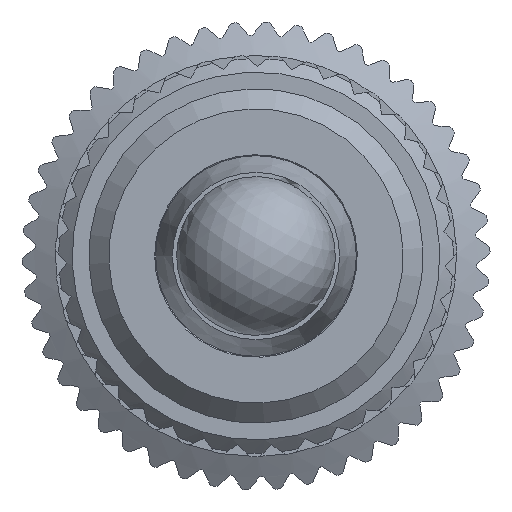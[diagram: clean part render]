
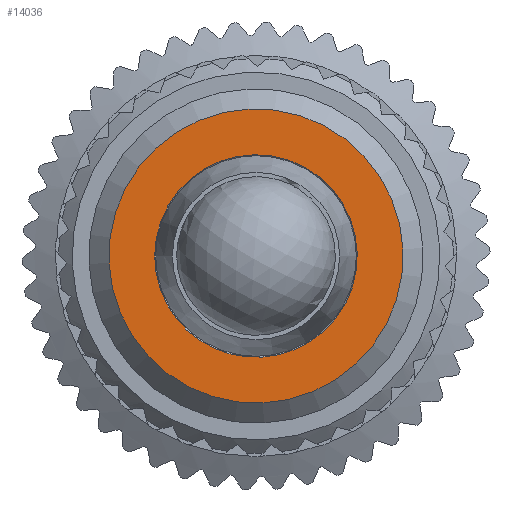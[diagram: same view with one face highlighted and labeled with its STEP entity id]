
A CAD part, left-side view. The second image highlights one B-rep face of the part: STEP entity #14036.
In plain terms, the highlighted planar face has unit normal (-1, 0, 0).
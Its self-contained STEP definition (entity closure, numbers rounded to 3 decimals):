
#2865=PLANE($,#15130);
#3446=FACE_BOUND($,#4549,.T.);
#3750=FACE_OUTER_BOUND($,#4548,.T.);
#4548=EDGE_LOOP($,(#10865));
#4549=EDGE_LOOP($,(#10866));
#5377=CIRCLE($,#15127,4.4);
#5379=CIRCLE($,#15131,3.03);
#6101=VERTEX_POINT($,#20993);
#6103=VERTEX_POINT($,#20999);
#7852=EDGE_CURVE($,#6101,#6101,#5377,.T.);
#7854=EDGE_CURVE($,#6103,#6103,#5379,.T.);
#10865=ORIENTED_EDGE($,*,*,#7852,.F.);
#10866=ORIENTED_EDGE($,*,*,#7854,.F.);
#14036=ADVANCED_FACE($,(#3750,#3446),#2865,.F.);
#15127=AXIS2_PLACEMENT_3D($,#20994,#17270,#17271);
#15130=AXIS2_PLACEMENT_3D($,#20998,#17276,#17277);
#15131=AXIS2_PLACEMENT_3D($,#21000,#17278,#17279);
#17270=DIRECTION('center_axis',(1.,0.,0.));
#17271=DIRECTION('ref_axis',(0.,0.386,0.922));
#17276=DIRECTION('center_axis',(1.,0.,0.));
#17277=DIRECTION('ref_axis',(0.,0.386,0.922));
#17278=DIRECTION('center_axis',(-1.,0.,0.));
#17279=DIRECTION('ref_axis',(0.,0.386,0.922));
#20993=CARTESIAN_POINT('',(-8.755,-2.482,-4.058));
#20994=CARTESIAN_POINT('Origin',(-8.755,-0.782,0.));
#20998=CARTESIAN_POINT('Origin',(-8.755,-0.782,0.));
#20999=CARTESIAN_POINT('',(-8.755,-1.952,-2.794));
#21000=CARTESIAN_POINT('Origin',(-8.755,-0.782,0.));
